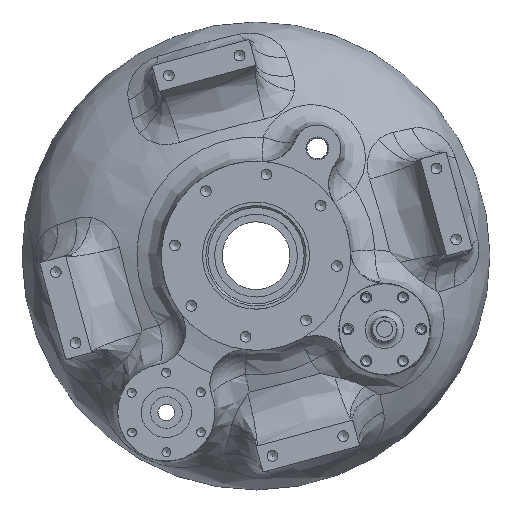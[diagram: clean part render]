
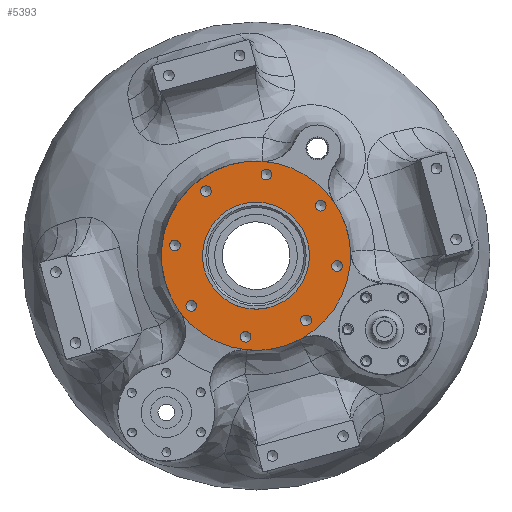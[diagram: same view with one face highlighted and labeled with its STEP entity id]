
A CAD part, top view. The second image highlights one B-rep face of the part: STEP entity #5393.
In plain terms, the highlighted planar face has unit normal (0, 0, 1).
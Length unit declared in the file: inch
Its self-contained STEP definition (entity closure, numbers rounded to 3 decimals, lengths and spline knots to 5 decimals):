
#377=FACE_BOUND('',#1743,.T.);
#378=FACE_BOUND('',#1744,.T.);
#379=FACE_BOUND('',#1745,.T.);
#380=FACE_BOUND('',#1746,.T.);
#381=FACE_BOUND('',#1747,.T.);
#382=FACE_BOUND('',#1748,.T.);
#383=FACE_BOUND('',#1749,.T.);
#384=FACE_BOUND('',#1750,.T.);
#385=FACE_BOUND('',#1751,.T.);
#453=PLANE('',#6029);
#1351=FACE_OUTER_BOUND('',#1742,.T.);
#1742=EDGE_LOOP('',(#4391,#4392,#4393,#4394,#4395,#4396));
#1743=EDGE_LOOP('',(#4397));
#1744=EDGE_LOOP('',(#4398));
#1745=EDGE_LOOP('',(#4399));
#1746=EDGE_LOOP('',(#4400));
#1747=EDGE_LOOP('',(#4401));
#1748=EDGE_LOOP('',(#4402));
#1749=EDGE_LOOP('',(#4403));
#1750=EDGE_LOOP('',(#4404));
#1751=EDGE_LOOP('',(#4405));
#2133=CIRCLE('',#5997,1.415);
#2145=CIRCLE('',#6011,1.415);
#2146=CIRCLE('',#6013,1.415);
#2152=CIRCLE('',#6024,1.415);
#2157=CIRCLE('',#6030,1.415);
#2158=CIRCLE('',#6031,1.415);
#2159=CIRCLE('',#6032,0.08);
#2160=CIRCLE('',#6033,0.08);
#2161=CIRCLE('',#6034,0.08);
#2162=CIRCLE('',#6035,0.08);
#2163=CIRCLE('',#6036,0.08);
#2164=CIRCLE('',#6037,0.08);
#2165=CIRCLE('',#6038,0.08);
#2166=CIRCLE('',#6039,0.08);
#2167=CIRCLE('',#6040,0.8);
#2551=VERTEX_POINT('',#13672);
#2553=VERTEX_POINT('',#13690);
#2565=VERTEX_POINT('',#13737);
#2571=VERTEX_POINT('',#13770);
#2578=VERTEX_POINT('',#13813);
#2582=VERTEX_POINT('',#13823);
#2583=VERTEX_POINT('',#13826);
#2584=VERTEX_POINT('',#13828);
#2585=VERTEX_POINT('',#13830);
#2586=VERTEX_POINT('',#13832);
#2587=VERTEX_POINT('',#13834);
#2588=VERTEX_POINT('',#13836);
#2589=VERTEX_POINT('',#13838);
#2590=VERTEX_POINT('',#13840);
#2591=VERTEX_POINT('',#13842);
#3193=EDGE_CURVE('',#2553,#2551,#2133,.T.);
#3207=EDGE_CURVE('',#2565,#2553,#2145,.T.);
#3215=EDGE_CURVE('',#2551,#2571,#2146,.T.);
#3224=EDGE_CURVE('',#2565,#2578,#2152,.T.);
#3229=EDGE_CURVE('',#2582,#2571,#2157,.T.);
#3230=EDGE_CURVE('',#2582,#2578,#2158,.T.);
#3231=EDGE_CURVE('',#2583,#2583,#2159,.T.);
#3232=EDGE_CURVE('',#2584,#2584,#2160,.T.);
#3233=EDGE_CURVE('',#2585,#2585,#2161,.T.);
#3234=EDGE_CURVE('',#2586,#2586,#2162,.T.);
#3235=EDGE_CURVE('',#2587,#2587,#2163,.T.);
#3236=EDGE_CURVE('',#2588,#2588,#2164,.T.);
#3237=EDGE_CURVE('',#2589,#2589,#2165,.T.);
#3238=EDGE_CURVE('',#2590,#2590,#2166,.T.);
#3239=EDGE_CURVE('',#2591,#2591,#2167,.T.);
#4391=ORIENTED_EDGE('',*,*,#3229,.F.);
#4392=ORIENTED_EDGE('',*,*,#3230,.T.);
#4393=ORIENTED_EDGE('',*,*,#3224,.F.);
#4394=ORIENTED_EDGE('',*,*,#3207,.T.);
#4395=ORIENTED_EDGE('',*,*,#3193,.T.);
#4396=ORIENTED_EDGE('',*,*,#3215,.T.);
#4397=ORIENTED_EDGE('',*,*,#3231,.T.);
#4398=ORIENTED_EDGE('',*,*,#3232,.T.);
#4399=ORIENTED_EDGE('',*,*,#3233,.T.);
#4400=ORIENTED_EDGE('',*,*,#3234,.T.);
#4401=ORIENTED_EDGE('',*,*,#3235,.T.);
#4402=ORIENTED_EDGE('',*,*,#3236,.T.);
#4403=ORIENTED_EDGE('',*,*,#3237,.T.);
#4404=ORIENTED_EDGE('',*,*,#3238,.T.);
#4405=ORIENTED_EDGE('',*,*,#3239,.T.);
#5393=ADVANCED_FACE('',(#1351,#377,#378,#379,#380,#381,#382,#383,#384,#385),
#453,.T.);
#5997=AXIS2_PLACEMENT_3D('',#13691,#7086,#7087);
#6011=AXIS2_PLACEMENT_3D('',#13738,#7115,#7116);
#6013=AXIS2_PLACEMENT_3D('',#13772,#7122,#7123);
#6024=AXIS2_PLACEMENT_3D('',#13814,#7146,#7147);
#6029=AXIS2_PLACEMENT_3D('',#13822,#7156,#7157);
#6030=AXIS2_PLACEMENT_3D('',#13824,#7158,#7159);
#6031=AXIS2_PLACEMENT_3D('',#13825,#7160,#7161);
#6032=AXIS2_PLACEMENT_3D('',#13827,#7162,#7163);
#6033=AXIS2_PLACEMENT_3D('',#13829,#7164,#7165);
#6034=AXIS2_PLACEMENT_3D('',#13831,#7166,#7167);
#6035=AXIS2_PLACEMENT_3D('',#13833,#7168,#7169);
#6036=AXIS2_PLACEMENT_3D('',#13835,#7170,#7171);
#6037=AXIS2_PLACEMENT_3D('',#13837,#7172,#7173);
#6038=AXIS2_PLACEMENT_3D('',#13839,#7174,#7175);
#6039=AXIS2_PLACEMENT_3D('',#13841,#7176,#7177);
#6040=AXIS2_PLACEMENT_3D('',#13843,#7178,#7179);
#7086=DIRECTION('center_axis',(0.,0.,1.));
#7087=DIRECTION('ref_axis',(1.,0.,0.));
#7115=DIRECTION('center_axis',(0.,0.,1.));
#7116=DIRECTION('ref_axis',(1.,0.,0.));
#7122=DIRECTION('center_axis',(0.,0.,1.));
#7123=DIRECTION('ref_axis',(1.,0.,0.));
#7146=DIRECTION('center_axis',(0.,0.,-1.));
#7147=DIRECTION('ref_axis',(1.,0.,0.));
#7156=DIRECTION('center_axis',(0.,0.,1.));
#7157=DIRECTION('ref_axis',(1.,0.,0.));
#7158=DIRECTION('center_axis',(0.,0.,-1.));
#7159=DIRECTION('ref_axis',(1.,0.,0.));
#7160=DIRECTION('center_axis',(0.,0.,1.));
#7161=DIRECTION('ref_axis',(1.,0.,0.));
#7162=DIRECTION('center_axis',(0.,0.,-1.));
#7163=DIRECTION('ref_axis',(0.707,-0.707,0.));
#7164=DIRECTION('center_axis',(0.,0.,-1.));
#7165=DIRECTION('ref_axis',(0.,-1.,0.));
#7166=DIRECTION('center_axis',(0.,0.,-1.));
#7167=DIRECTION('ref_axis',(-0.707,-0.707,0.));
#7168=DIRECTION('center_axis',(0.,0.,-1.));
#7169=DIRECTION('ref_axis',(-1.,0.,0.));
#7170=DIRECTION('center_axis',(0.,0.,-1.));
#7171=DIRECTION('ref_axis',(-0.707,0.707,0.));
#7172=DIRECTION('center_axis',(0.,0.,-1.));
#7173=DIRECTION('ref_axis',(0.,1.,0.));
#7174=DIRECTION('center_axis',(0.,0.,-1.));
#7175=DIRECTION('ref_axis',(0.707,0.707,0.));
#7176=DIRECTION('center_axis',(0.,0.,-1.));
#7177=DIRECTION('ref_axis',(1.,0.,0.));
#7178=DIRECTION('center_axis',(0.,0.,-1.));
#7179=DIRECTION('ref_axis',(1.,0.,0.));
#13672=CARTESIAN_POINT('',(0.5843,-1.28873,2.205));
#13690=CARTESIAN_POINT('',(-0.5843,-1.28873,2.205));
#13691=CARTESIAN_POINT('Origin',(0.,0.,2.205));
#13737=CARTESIAN_POINT('',(-0.62321,1.27037,2.205));
#13738=CARTESIAN_POINT('Origin',(0.,0.,2.205));
#13770=CARTESIAN_POINT('',(1.19389,-0.7595,2.205));
#13772=CARTESIAN_POINT('Origin',(0.,0.,2.205));
#13813=CARTESIAN_POINT('',(0.62321,1.27037,2.205));
#13814=CARTESIAN_POINT('Origin',(0.,0.,2.205));
#13822=CARTESIAN_POINT('Origin',(0.,1.85,2.205));
#13823=CARTESIAN_POINT('',(1.19389,0.7595,2.205));
#13824=CARTESIAN_POINT('Origin',(0.,0.,2.205));
#13825=CARTESIAN_POINT('Origin',(0.,0.,2.205));
#13826=CARTESIAN_POINT('',(0.41145,-1.07334,2.205));
#13827=CARTESIAN_POINT('Origin',(0.46802,-1.1299,2.205));
#13828=CARTESIAN_POINT('',(-0.46802,-1.0499,2.205));
#13829=CARTESIAN_POINT('Origin',(-0.46802,-1.1299,2.205));
#13830=CARTESIAN_POINT('',(-1.07334,-0.41145,2.205));
#13831=CARTESIAN_POINT('Origin',(-1.1299,-0.46802,2.205));
#13832=CARTESIAN_POINT('',(-1.0499,0.46802,2.205));
#13833=CARTESIAN_POINT('Origin',(-1.1299,0.46802,2.205));
#13834=CARTESIAN_POINT('',(-0.41145,1.07334,2.205));
#13835=CARTESIAN_POINT('Origin',(-0.46802,1.1299,2.205));
#13836=CARTESIAN_POINT('',(0.46802,1.0499,2.205));
#13837=CARTESIAN_POINT('Origin',(0.46802,1.1299,2.205));
#13838=CARTESIAN_POINT('',(1.07334,0.41145,2.205));
#13839=CARTESIAN_POINT('Origin',(1.1299,0.46802,2.205));
#13840=CARTESIAN_POINT('',(1.0499,-0.46802,2.205));
#13841=CARTESIAN_POINT('Origin',(1.1299,-0.46802,2.205));
#13842=CARTESIAN_POINT('',(-0.8,0.,2.205));
#13843=CARTESIAN_POINT('Origin',(0.,0.,2.205));
